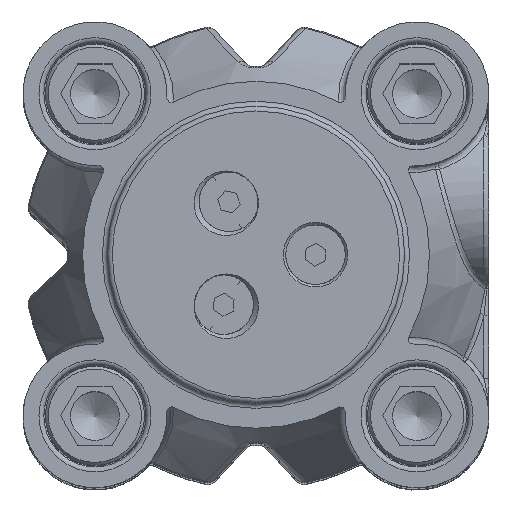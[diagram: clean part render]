
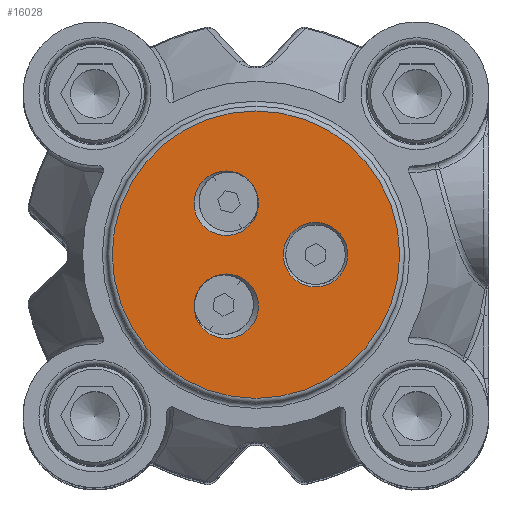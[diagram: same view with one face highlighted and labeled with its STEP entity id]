
A CAD part, top view. The second image highlights one B-rep face of the part: STEP entity #16028.
In plain terms, the highlighted planar face has unit normal (0, 0, 1) as drawn and (0, 0, -1) by its records, which use the part's own axes.
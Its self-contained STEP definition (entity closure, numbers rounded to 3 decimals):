
#5418=ORIENTED_EDGE('',*,*,#8882,.T.);
#5419=ORIENTED_EDGE('',*,*,#8883,.T.);
#5420=ORIENTED_EDGE('',*,*,#8870,.T.);
#5421=ORIENTED_EDGE('',*,*,#8871,.T.);
#5422=ORIENTED_EDGE('',*,*,#8853,.T.);
#5423=ORIENTED_EDGE('',*,*,#8854,.T.);
#5424=ORIENTED_EDGE('',*,*,#9261,.F.);
#5425=ORIENTED_EDGE('',*,*,#9265,.F.);
#8853=EDGE_CURVE('',#11062,#11061,#12482,.T.);
#8854=EDGE_CURVE('',#11061,#11062,#12483,.T.);
#8870=EDGE_CURVE('',#11077,#11076,#12488,.T.);
#8871=EDGE_CURVE('',#11076,#11077,#12489,.T.);
#8882=EDGE_CURVE('',#11087,#11086,#12495,.T.);
#8883=EDGE_CURVE('',#11086,#11087,#12496,.T.);
#9261=EDGE_CURVE('',#11352,#11353,#12573,.T.);
#9265=EDGE_CURVE('',#11353,#11352,#12577,.T.);
#11061=VERTEX_POINT('',#29929);
#11062=VERTEX_POINT('',#29931);
#11076=VERTEX_POINT('',#30016);
#11077=VERTEX_POINT('',#30018);
#11086=VERTEX_POINT('',#30053);
#11087=VERTEX_POINT('',#30055);
#11352=VERTEX_POINT('',#31443);
#11353=VERTEX_POINT('',#31444);
#12482=CIRCLE('',#22825,3.25);
#12483=CIRCLE('',#22826,3.25);
#12488=CIRCLE('',#22833,3.25);
#12489=CIRCLE('',#22834,3.25);
#12495=CIRCLE('',#22841,3.25);
#12496=CIRCLE('',#22842,3.25);
#12573=CIRCLE('',#23048,14.5);
#12577=CIRCLE('',#23052,14.5);
#13455=EDGE_LOOP('',(#5418,#5419));
#13456=EDGE_LOOP('',(#5420,#5421));
#13457=EDGE_LOOP('',(#5422,#5423));
#13458=EDGE_LOOP('',(#5424,#5425));
#14588=FACE_BOUND('',#13455,.T.);
#14589=FACE_BOUND('',#13456,.T.);
#14590=FACE_BOUND('',#13457,.T.);
#14591=FACE_BOUND('',#13458,.T.);
#15453=PLANE('',#23056);
#16028=ADVANCED_FACE('',(#14588,#14589,#14590,#14591),#15453,.T.);
#22825=AXIS2_PLACEMENT_3D('',#29930,#25546,#25547);
#22826=AXIS2_PLACEMENT_3D('',#29932,#25548,#25549);
#22833=AXIS2_PLACEMENT_3D('',#30017,#25565,#25566);
#22834=AXIS2_PLACEMENT_3D('',#30019,#25567,#25568);
#22841=AXIS2_PLACEMENT_3D('',#30054,#25582,#25583);
#22842=AXIS2_PLACEMENT_3D('',#30056,#25584,#25585);
#23048=AXIS2_PLACEMENT_3D('',#31442,#26111,#26112);
#23052=AXIS2_PLACEMENT_3D('',#31450,#26119,#26120);
#23056=AXIS2_PLACEMENT_3D('',#31457,#26128,#26129);
#25546=DIRECTION('',(0.,0.,1.));
#25547=DIRECTION('',(1.,0.,0.));
#25548=DIRECTION('',(0.,0.,1.));
#25549=DIRECTION('',(1.,0.,0.));
#25565=DIRECTION('',(0.,0.,1.));
#25566=DIRECTION('',(1.,0.,0.));
#25567=DIRECTION('',(0.,0.,1.));
#25568=DIRECTION('',(1.,0.,0.));
#25582=DIRECTION('',(0.,0.,1.));
#25583=DIRECTION('',(1.,0.,0.));
#25584=DIRECTION('',(0.,0.,1.));
#25585=DIRECTION('',(1.,0.,0.));
#26111=DIRECTION('',(0.,0.,1.));
#26112=DIRECTION('',(-1.,0.,0.));
#26119=DIRECTION('',(0.,0.,1.));
#26120=DIRECTION('',(-1.,0.,0.));
#26128=DIRECTION('',(0.,0.,-1.));
#26129=DIRECTION('',(1.,0.,0.));
#29929=CARTESIAN_POINT('',(-6.25,5.196,-115.5));
#29930=CARTESIAN_POINT('',(-3.,5.196,-115.5));
#29931=CARTESIAN_POINT('',(0.25,5.196,-115.5));
#29932=CARTESIAN_POINT('',(-3.,5.196,-115.5));
#30016=CARTESIAN_POINT('',(2.75,0.,-115.5));
#30017=CARTESIAN_POINT('',(6.,0.,-115.5));
#30018=CARTESIAN_POINT('',(9.25,0.,-115.5));
#30019=CARTESIAN_POINT('',(6.,0.,-115.5));
#30053=CARTESIAN_POINT('',(-6.25,-5.196,-115.5));
#30054=CARTESIAN_POINT('',(-3.,-5.196,-115.5));
#30055=CARTESIAN_POINT('',(0.25,-5.196,-115.5));
#30056=CARTESIAN_POINT('',(-3.,-5.196,-115.5));
#31442=CARTESIAN_POINT('',(0.,0.,
-115.5));
#31443=CARTESIAN_POINT('',(14.5,0.,-115.5));
#31444=CARTESIAN_POINT('',(-14.5,0.,-115.5));
#31450=CARTESIAN_POINT('',(0.,0.,
-115.5));
#31457=CARTESIAN_POINT('',(7.5,0.,-115.5));
